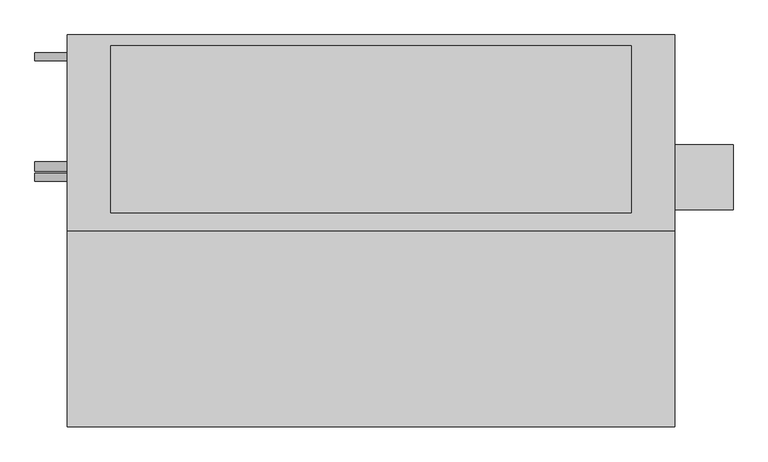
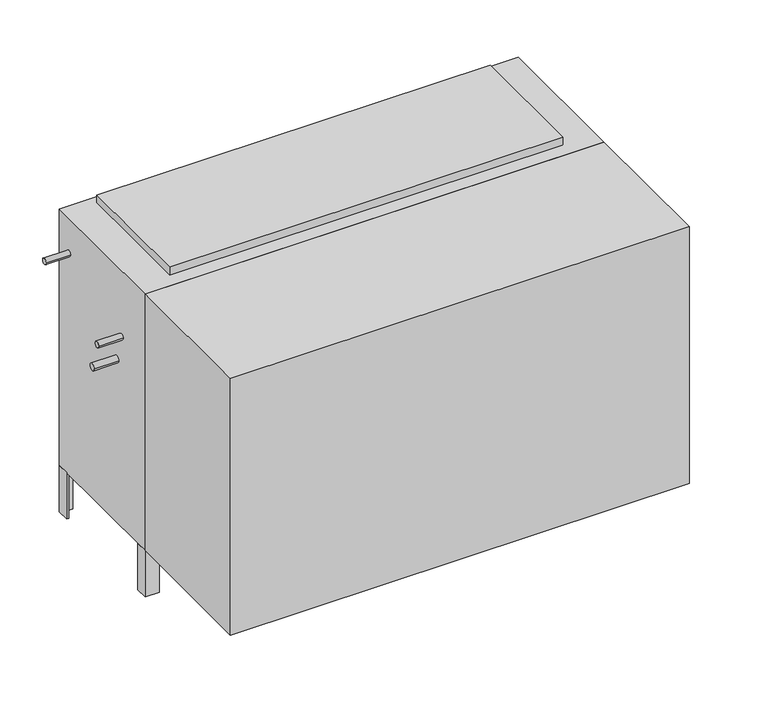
"""IFC4 building model written with IfcOpenShell, lengths in millimetres: proxy geometry, Concealed_High_Capacity_Vertical_Fan_Coil_Unit_-_VEY_-_IEC_-_2-Pipe_Cool-EHeat_LH_2022 : Size 20 - 277v/60Hz/1Ph - 6 Row 14.0kW."""

from ifc_helpers import new_model, si_unit, point, frame, frame_2d, origin, origin_with_axes, place, context, project, spatial, polyline, circle_curve, trimmed, segment, composite_curve, outline, extrude, source, transform, mapped, element, save


def mechanical_equipment_fc6682ea(model_context):
    return source(origin(), model_context, "Body", "SweptSolid", [
        extrude(outline(polyline([(698.9230703, 747.7868862), (688.975, 779.9602728), (831.1459244, 779.9602728), (808.1239183, 747.7868862), (698.9230703, 747.7868862)])), frame((0.0, -471.4875, 0.0), z_axis=(0.0, 1.0, 0.0), x_axis=(0.0, 0.0, 1.0)), (0.0, 0.0, 1.0), 3.175),
        extrude(outline(polyline([(777.9223557, 786.7186058), (774.7199632, 812.8), (803.9488042, 812.8), (812.0132193, 786.7186058), (777.9223557, 786.7186058)])), frame((0.0, -471.4875, 0.0), z_axis=(0.0, 1.0, 0.0), x_axis=(0.0, 0.0, 1.0)), (0.0, 0.0, 1.0), 3.175),
        extrude(outline(polyline([(726.0588288, 812.8), (722.3933279, 786.7186058), (688.975, 786.7186058), (697.6092372, 812.8), (726.0588288, 812.8)])), frame((0.0, -471.4875, 0.0), z_axis=(0.0, 1.0, 0.0), x_axis=(0.0, 0.0, 1.0)), (0.0, 0.0, 1.0), 3.175),
        extrude(outline(polyline([(765.3739903, 812.8), (767.6558166, 786.7186058), (731.7182681, 786.7186058), (734.4595331, 812.8), (765.3739903, 812.8)])), frame((0.0, -471.4875, 0.0), z_axis=(0.0, 1.0, 0.0), x_axis=(0.0, 0.0, 1.0)), (0.0, 0.0, 1.0), 3.175),
        extrude(outline(polyline([(863.6, -468.3125), (863.6, -925.5125), (-558.8, -925.5125), (-558.8, -468.3125), (863.6, -468.3125)])), origin_with_axes(), (0.0, 0.0, 1.0), 841.375),
        extrude(outline(polyline([(863.6, -417.5125), (863.6, -265.1125), (1000.125, -265.1125), (1000.125, -417.5125), (863.6, -417.5125)])), frame((0.0, 0.0, 101.6), z_axis=(0.0, 0.0, 1.0), x_axis=(1.0, 0.0, 0.0)), (0.0, 0.0, 1.0), 152.4),
        extrude(outline(polyline([(863.6, -46.0375), (857.25, -46.0375), (857.25, -14.2875), (825.5, -14.2875), (825.5, -7.9375), (863.6, -7.9375), (863.6, -46.0375)])), frame((0.0, 0.0, -152.4), z_axis=(0.0, 0.0, 1.0), x_axis=(1.0, 0.0, 0.0)), (0.0, 0.0, 1.0), 152.4),
        extrude(outline(polyline([(-520.7, -7.9375), (-520.7, -14.2875), (-552.45, -14.2875), (-552.45, -46.0375), (-558.8, -46.0375), (-558.8, -7.9375), (-520.7, -7.9375)])), frame((0.0, 0.0, -152.4), z_axis=(0.0, 0.0, 1.0), x_axis=(1.0, 0.0, 0.0)), (0.0, 0.0, 1.0), 152.4),
        extrude(outline(polyline([(825.5, -468.3125), (825.5, -461.9625), (857.25, -461.9625), (857.25, -430.2125), (863.6, -430.2125), (863.6, -468.3125), (825.5, -468.3125)])), frame((0.0, 0.0, -152.4), z_axis=(0.0, 0.0, 1.0), x_axis=(1.0, 0.0, 0.0)), (0.0, 0.0, 1.0), 152.4),
        extrude(outline(polyline([(-558.8, -428.1199163), (-552.45, -428.1199163), (-552.45, -461.9625), (-515.3318533, -461.9625), (-515.3318533, -468.3125), (-558.8, -468.3125), (-558.8, -428.1199163)])), frame((0.0, 0.0, -152.4), z_axis=(0.0, 0.0, 1.0), x_axis=(1.0, 0.0, 0.0)), (0.0, 0.0, 1.0), 152.4),
        extrude(outline(polyline([(762.0, -33.3375), (762.0, -423.8625), (-457.2, -423.8625), (-457.2, -33.3375), (762.0, -33.3375)])), frame((0.0, 0.0, 841.375), z_axis=(0.0, 0.0, 1.0), x_axis=(1.0, 0.0, 0.0)), (0.0, 0.0, 1.0), 25.4),
        extrude(outline(polyline([(838.2, -471.4875), (-533.4, -471.4875), (-533.4, -468.3125), (838.2, -468.3125), (838.2, -471.4875)])), frame((0.0, 0.0, 50.8), z_axis=(0.0, 0.0, 1.0), x_axis=(1.0, 0.0, 0.0)), (0.0, 0.0, 1.0), 304.8),
        extrude(outline(composite_curve([segment(trimmed(circle_curve(frame_2d((-58.7375, 727.075)), 9.525), [point((-68.2625, 727.075))], [point((-49.2125, 727.075))], False, "CARTESIAN"), True, "CONTINUOUS"), segment(trimmed(circle_curve(frame_2d((-58.7375, 727.075)), 9.525), [point((-49.2125, 727.075))], [point((-68.2625, 727.075))], False, "CARTESIAN"), True, "CONTINUOUS")], self_intersect=False)), frame((-635.0, 0.0, 0.0), z_axis=(1.0, 0.0, 0.0), x_axis=(0.0, 1.0, 0.0)), (0.0, 0.0, 1.0), 76.2),
        extrude(outline(composite_curve([segment(trimmed(circle_curve(frame_2d((-341.3125, 625.475)), 9.525), [point((-350.8375, 625.475))], [point((-331.7875, 625.475))], False, "CARTESIAN"), True, "CONTINUOUS"), segment(trimmed(circle_curve(frame_2d((-341.3125, 625.475)), 9.525), [point((-331.7875, 625.475))], [point((-350.8375, 625.475))], False, "CARTESIAN"), True, "CONTINUOUS")], self_intersect=False)), frame((-635.0, 0.0, 0.0), z_axis=(1.0, 0.0, 0.0), x_axis=(0.0, 1.0, 0.0)), (0.0, 0.0, 1.0), 76.2),
        extrude(outline(composite_curve([segment(trimmed(circle_curve(frame_2d((-315.9125, 536.575)), 11.1125), [point((-327.025, 536.575))], [point((-304.8, 536.575))], False, "CARTESIAN"), True, "CONTINUOUS"), segment(trimmed(circle_curve(frame_2d((-315.9125, 536.575)), 11.1125), [point((-304.8, 536.575))], [point((-327.025, 536.575))], False, "CARTESIAN"), True, "CONTINUOUS")], self_intersect=False)), frame((-635.0, 0.0, 0.0), z_axis=(1.0, 0.0, 0.0), x_axis=(0.0, 1.0, 0.0)), (0.0, 0.0, 1.0), 76.2),
        extrude(outline(polyline([(863.6, -7.9375), (863.6, -468.3125), (-558.8, -468.3125), (-558.8, -7.9375), (863.6, -7.9375)])), origin_with_axes(), (0.0, 0.0, 1.0), 841.375),
    ])


if __name__ == "__main__":
    model = new_model("IFC4")
    model_context = context("Model", 3, world=origin())
    ifc_project = project(units=[si_unit("LENGTHUNIT", "METRE", prefix="MILLI")], contexts=[model_context])
    site = spatial("IfcSite", under=ifc_project)
    building = spatial("IfcBuilding", under=site)
    placement = place(None, origin())
    mechanical_equipment_shape = mechanical_equipment_fc6682ea(model_context)
    element("IfcBuildingElementProxy", 1, Name="Concealed_High_Capacity_Vertical_Fan_Coil_Unit_-_VEY_-_IEC_-_2-Pipe_Cool-EHeat_LH_2022 : Size 20 - 277v/60Hz/1Ph - 6 Row 14.0kW", ObjectType="Concealed_High_Capacity_Vertical_Fan_Coil_Unit_-_VEY_-_IEC_-_2-Pipe_Cool-EHeat_LH_2022 : Size 20 - 277v/60Hz/1Ph - 6 Row 14.0kW", at=placement, inside=building, context=model_context, shape_type="MappedRepresentation", body=[
        mapped(mechanical_equipment_shape, transform((0.0, 0.0, 0.0), x_axis=(1.0, 0.0, 0.0), y_axis=(0.0, 1.0, 0.0), z_axis=(0.0, 0.0, 1.0))),
    ])
    save(model, "model.ifc")
